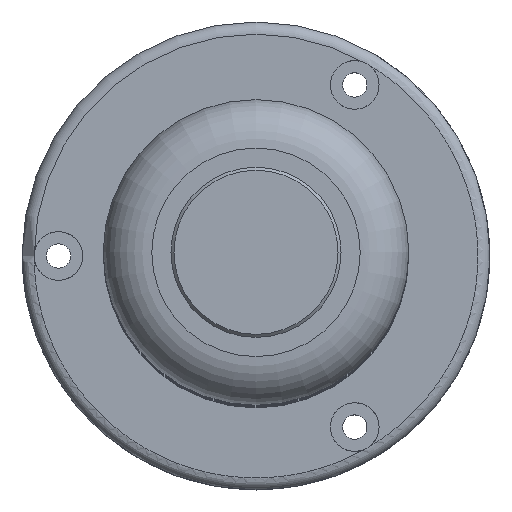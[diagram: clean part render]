
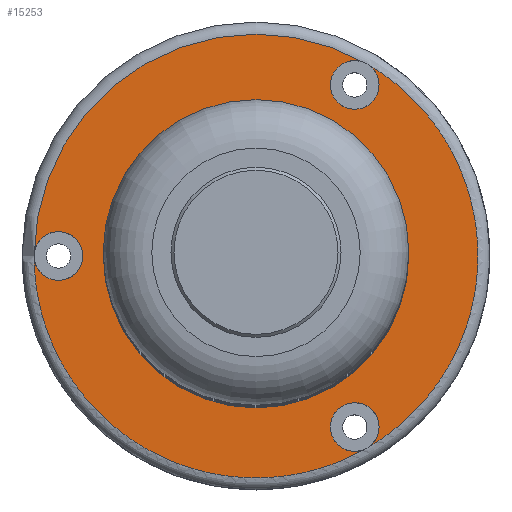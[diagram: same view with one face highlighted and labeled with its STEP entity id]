
A CAD part, top view. The second image highlights one B-rep face of the part: STEP entity #15253.
In plain terms, the highlighted planar face has unit normal (0, 0, -1).
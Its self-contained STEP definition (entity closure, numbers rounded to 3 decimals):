
#12930=PLANE('',#43375);
#15253=ADVANCED_FACE('',(#17836,#17837,#17838,#17839,#17840),#12930,.T.);
#17836=FACE_BOUND('',#18509,.T.);
#17837=FACE_BOUND('',#18510,.T.);
#17838=FACE_BOUND('',#18511,.T.);
#17839=FACE_BOUND('',#18512,.T.);
#17840=FACE_BOUND('',#18513,.T.);
#18509=EDGE_LOOP('',(#21567));
#18510=EDGE_LOOP('',(#21568));
#18511=EDGE_LOOP('',(#21569));
#18512=EDGE_LOOP('',(#21570));
#18513=EDGE_LOOP('',(#21571));
#21567=ORIENTED_EDGE('',*,*,#37315,.T.);
#21568=ORIENTED_EDGE('',*,*,#37316,.T.);
#21569=ORIENTED_EDGE('',*,*,#37317,.T.);
#21570=ORIENTED_EDGE('',*,*,#37318,.T.);
#21571=ORIENTED_EDGE('',*,*,#37305,.F.);
#33347=VERTEX_POINT('',#55663);
#33357=VERTEX_POINT('',#55817);
#33358=VERTEX_POINT('',#55819);
#33359=VERTEX_POINT('',#55821);
#33360=VERTEX_POINT('',#55823);
#37305=EDGE_CURVE('',#33347,#33347,#43200,.T.);
#37315=EDGE_CURVE('',#33357,#33357,#43208,.T.);
#37316=EDGE_CURVE('',#33358,#33358,#43209,.T.);
#37317=EDGE_CURVE('',#33359,#33359,#43210,.T.);
#37318=EDGE_CURVE('',#33360,#33360,#43211,.T.);
#43200=CIRCLE('',#43359,10.75);
#43208=CIRCLE('',#43371,2.);
#43209=CIRCLE('',#43372,2.);
#43210=CIRCLE('',#43373,2.);
#43211=CIRCLE('',#43374,38.);
#43359=AXIS2_PLACEMENT_3D('',#55662,#45942,#45943);
#43371=AXIS2_PLACEMENT_3D('',#55816,#45966,#45967);
#43372=AXIS2_PLACEMENT_3D('',#55818,#45968,#45969);
#43373=AXIS2_PLACEMENT_3D('',#55820,#45970,#45971);
#43374=AXIS2_PLACEMENT_3D('',#55822,#45972,#45973);
#43375=AXIS2_PLACEMENT_3D('',#55824,#45974,#45975);
#45942=DIRECTION('',(0.,0.,-1.));
#45943=DIRECTION('',(-1.,0.,0.));
#45966=DIRECTION('',(0.,0.,1.));
#45967=DIRECTION('',(1.,0.,0.));
#45968=DIRECTION('',(0.,0.,1.));
#45969=DIRECTION('',(1.,0.,0.));
#45970=DIRECTION('',(0.,0.,1.));
#45971=DIRECTION('',(1.,0.,0.));
#45972=DIRECTION('',(0.,0.,-1.));
#45973=DIRECTION('',(-1.,0.,0.));
#45974=DIRECTION('',(0.,0.,-1.));
#45975=DIRECTION('',(1.,0.,0.));
#55662=CARTESIAN_POINT('',(0.,50.,-90.5));
#55663=CARTESIAN_POINT('',(-10.75,50.,-90.5));
#55816=CARTESIAN_POINT('',(16.25,78.146,-90.5));
#55817=CARTESIAN_POINT('',(18.25,78.146,-90.5));
#55818=CARTESIAN_POINT('',(16.25,21.854,-90.5));
#55819=CARTESIAN_POINT('',(18.25,21.854,-90.5));
#55820=CARTESIAN_POINT('',(-32.5,50.,-90.5));
#55821=CARTESIAN_POINT('',(-30.5,50.,-90.5));
#55822=CARTESIAN_POINT('',(0.,50.,-90.5));
#55823=CARTESIAN_POINT('',(-38.,50.,-90.5));
#55824=CARTESIAN_POINT('',(0.,50.,-90.5));
